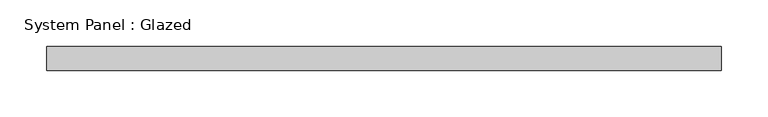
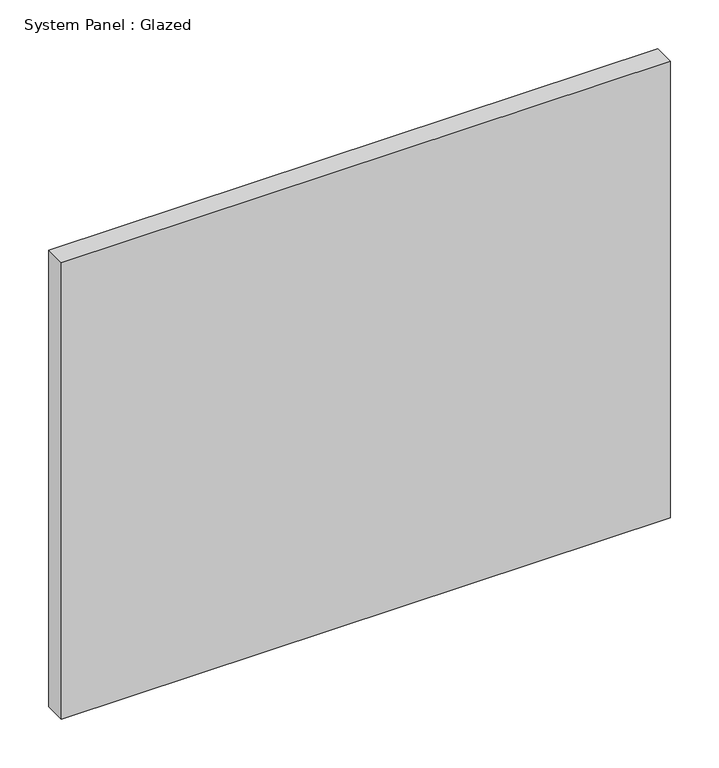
"""IFC4 building model written with IfcOpenShell, lengths in millimetres: plate geometry, System Panel : Glazed."""

from ifc_helpers import new_model, si_unit, origin, origin_with_axes, place, context, project, spatial, polyline, outline, extrude, source, transform, mapped, element, save


def system_panel_glazed_55be3c9d(model_context):
    return source(origin(), model_context, "Body", "SweptSolid", [
        extrude(outline(polyline([(360.5609374, -44.45), (-360.5609374, -44.45), (-360.5609374, -19.05), (360.5609374, -19.05), (360.5609374, -44.45)])), origin_with_axes(), (0.0, 0.0, 1.0), 571.5),
    ])


if __name__ == "__main__":
    model = new_model("IFC4")
    model_context = context("Model", 3, world=origin())
    ifc_project = project(units=[si_unit("LENGTHUNIT", "METRE", prefix="MILLI")], contexts=[model_context])
    site = spatial("IfcSite", under=ifc_project)
    building = spatial("IfcBuilding", under=site)
    placement = place(None, origin())
    system_panel_glazed_shape = system_panel_glazed_55be3c9d(model_context)
    element("IfcPlate", 1, ObjectType="System Panel : Glazed", at=placement, inside=building, context=model_context, shape_type="MappedRepresentation", body=[
        mapped(system_panel_glazed_shape, transform((0.0, 0.0, 0.0), x_axis=(1.0, 0.0, 0.0), y_axis=(0.0, 1.0, 0.0), z_axis=(0.0, 0.0, 1.0))),
    ])
    save(model, "model.ifc")
